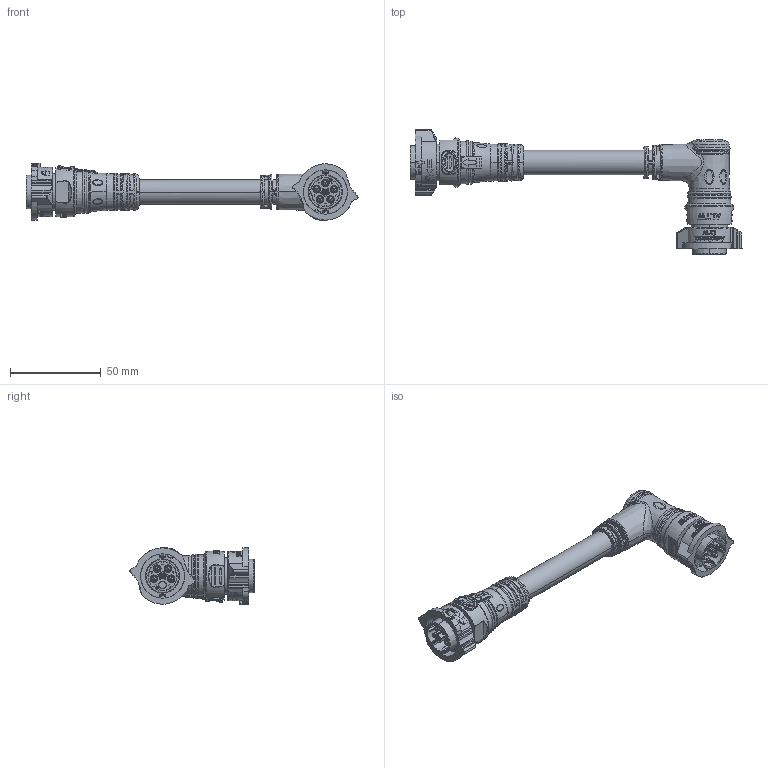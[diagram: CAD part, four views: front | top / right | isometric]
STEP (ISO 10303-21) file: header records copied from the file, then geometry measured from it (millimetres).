
FILE_DESCRIPTION((''),'2;1');
FILE_NAME('AB-DCXXBL-DCBR-QEXXX_SW0001','2020-02-07T',('L100003'),(''),'PRO/ENGINEER BY PARAMETRIC TECHNOLOGY CORPORATION, 2017170','PRO/ENGINEER BY PARAMETRIC TECHNOLOGY CORPORATION, 2017170','');
FILE_SCHEMA(('CONFIG_CONTROL_DESIGN'));
Products named in the file (1): AB-DCXXBL-DCBR-QEXXX_SW0001
Bounding box: 182.9 x 68.45 x 31.6 mm (x, y, z)
Volume: 66805.4 mm3; surface area: 26630.5 mm2
Topology: 1 solids, 1 shells, 2268 faces, 6073 edges, 3932 vertices
Faces by surface type: plane 829, extrusion 454, bspline 335, cylinder 331, cone 151, torus 96, sphere 56, revolution 16
Entity records: 103898 total; most frequent: CARTESIAN_POINT 51986, ORIENTED_EDGE 12146, DIRECTION 8533, EDGE_CURVE 6073, VERTEX_POINT 3932, AXIS2_PLACEMENT_3D 2976, B_SPLINE_CURVE_WITH_KNOTS 2919, VECTOR 2565
